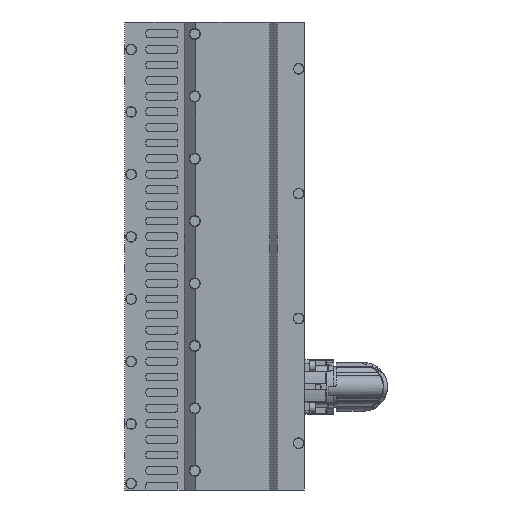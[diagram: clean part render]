
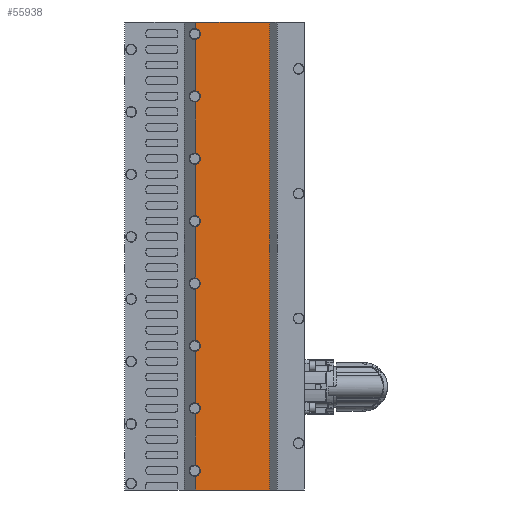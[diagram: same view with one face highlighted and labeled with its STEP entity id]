
A CAD part, left-side view. The second image highlights one B-rep face of the part: STEP entity #55938.
In plain terms, the highlighted planar face has unit normal (-1, 0, 0).
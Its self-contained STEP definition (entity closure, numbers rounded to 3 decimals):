
#4168=FACE_OUTER_BOUND('',#7235,.T.);
#7235=EDGE_LOOP('',(#34989,#34990,#34991,#34992,#34993,#34994,#34995,#34996,
#34997,#34998,#34999,#35000,#35001,#35002,#35003,#35004,#35005,#35006,#35007,
#35008));
#10577=CIRCLE('',#59154,3.);
#10578=CIRCLE('',#59155,3.);
#10579=CIRCLE('',#59156,3.);
#10580=CIRCLE('',#59157,3.);
#10581=CIRCLE('',#59158,3.);
#10582=CIRCLE('',#59159,3.);
#10583=CIRCLE('',#59160,3.);
#10584=CIRCLE('',#59161,3.);
#12876=LINE('',#80885,#16689);
#12896=LINE('',#80957,#16709);
#12897=LINE('',#80961,#16710);
#12898=LINE('',#80965,#16711);
#12899=LINE('',#80969,#16712);
#12900=LINE('',#80973,#16713);
#12901=LINE('',#80977,#16714);
#12902=LINE('',#80981,#16715);
#12903=LINE('',#80983,#16716);
#12904=LINE('',#80984,#16717);
#12905=LINE('',#80986,#16718);
#12906=LINE('',#80989,#16719);
#16689=VECTOR('',#65276,10.);
#16709=VECTOR('',#65334,10.);
#16710=VECTOR('',#65337,10.);
#16711=VECTOR('',#65340,10.);
#16712=VECTOR('',#65343,10.);
#16713=VECTOR('',#65346,10.);
#16714=VECTOR('',#65349,10.);
#16715=VECTOR('',#65352,10.);
#16716=VECTOR('',#65353,10.);
#16717=VECTOR('',#65354,10.);
#16718=VECTOR('',#65355,10.);
#16719=VECTOR('',#65358,10.);
#20625=VERTEX_POINT('',#80882);
#20626=VERTEX_POINT('',#80884);
#20657=VERTEX_POINT('',#80953);
#20658=VERTEX_POINT('',#80954);
#20659=VERTEX_POINT('',#80956);
#20660=VERTEX_POINT('',#80958);
#20661=VERTEX_POINT('',#80960);
#20662=VERTEX_POINT('',#80962);
#20663=VERTEX_POINT('',#80964);
#20664=VERTEX_POINT('',#80966);
#20665=VERTEX_POINT('',#80968);
#20666=VERTEX_POINT('',#80970);
#20667=VERTEX_POINT('',#80972);
#20668=VERTEX_POINT('',#80974);
#20669=VERTEX_POINT('',#80976);
#20670=VERTEX_POINT('',#80978);
#20671=VERTEX_POINT('',#80980);
#20672=VERTEX_POINT('',#80982);
#20673=VERTEX_POINT('',#80985);
#20674=VERTEX_POINT('',#80987);
#26277=EDGE_CURVE('',#20625,#20626,#12876,.T.);
#26311=EDGE_CURVE('',#20657,#20658,#10577,.T.);
#26312=EDGE_CURVE('',#20659,#20658,#12896,.T.);
#26313=EDGE_CURVE('',#20659,#20660,#10578,.T.);
#26314=EDGE_CURVE('',#20661,#20660,#12897,.T.);
#26315=EDGE_CURVE('',#20661,#20662,#10579,.T.);
#26316=EDGE_CURVE('',#20663,#20662,#12898,.T.);
#26317=EDGE_CURVE('',#20663,#20664,#10580,.T.);
#26318=EDGE_CURVE('',#20665,#20664,#12899,.T.);
#26319=EDGE_CURVE('',#20665,#20666,#10581,.T.);
#26320=EDGE_CURVE('',#20667,#20666,#12900,.T.);
#26321=EDGE_CURVE('',#20667,#20668,#10582,.T.);
#26322=EDGE_CURVE('',#20669,#20668,#12901,.T.);
#26323=EDGE_CURVE('',#20669,#20670,#10583,.T.);
#26324=EDGE_CURVE('',#20671,#20670,#12902,.T.);
#26325=EDGE_CURVE('',#20671,#20672,#12903,.T.);
#26326=EDGE_CURVE('',#20672,#20626,#12904,.T.);
#26327=EDGE_CURVE('',#20673,#20625,#12905,.T.);
#26328=EDGE_CURVE('',#20673,#20674,#10584,.T.);
#26329=EDGE_CURVE('',#20657,#20674,#12906,.T.);
#34989=ORIENTED_EDGE('',*,*,#26311,.T.);
#34990=ORIENTED_EDGE('',*,*,#26312,.F.);
#34991=ORIENTED_EDGE('',*,*,#26313,.T.);
#34992=ORIENTED_EDGE('',*,*,#26314,.F.);
#34993=ORIENTED_EDGE('',*,*,#26315,.T.);
#34994=ORIENTED_EDGE('',*,*,#26316,.F.);
#34995=ORIENTED_EDGE('',*,*,#26317,.T.);
#34996=ORIENTED_EDGE('',*,*,#26318,.F.);
#34997=ORIENTED_EDGE('',*,*,#26319,.T.);
#34998=ORIENTED_EDGE('',*,*,#26320,.F.);
#34999=ORIENTED_EDGE('',*,*,#26321,.T.);
#35000=ORIENTED_EDGE('',*,*,#26322,.F.);
#35001=ORIENTED_EDGE('',*,*,#26323,.T.);
#35002=ORIENTED_EDGE('',*,*,#26324,.F.);
#35003=ORIENTED_EDGE('',*,*,#26325,.T.);
#35004=ORIENTED_EDGE('',*,*,#26326,.T.);
#35005=ORIENTED_EDGE('',*,*,#26277,.F.);
#35006=ORIENTED_EDGE('',*,*,#26327,.F.);
#35007=ORIENTED_EDGE('',*,*,#26328,.T.);
#35008=ORIENTED_EDGE('',*,*,#26329,.F.);
#51383=PLANE('',#59153);
#55938=ADVANCED_FACE('',(#4168),#51383,.T.);
#59153=AXIS2_PLACEMENT_3D('',#80952,#65330,#65331);
#59154=AXIS2_PLACEMENT_3D('',#80955,#65332,#65333);
#59155=AXIS2_PLACEMENT_3D('',#80959,#65335,#65336);
#59156=AXIS2_PLACEMENT_3D('',#80963,#65338,#65339);
#59157=AXIS2_PLACEMENT_3D('',#80967,#65341,#65342);
#59158=AXIS2_PLACEMENT_3D('',#80971,#65344,#65345);
#59159=AXIS2_PLACEMENT_3D('',#80975,#65347,#65348);
#59160=AXIS2_PLACEMENT_3D('',#80979,#65350,#65351);
#59161=AXIS2_PLACEMENT_3D('',#80988,#65356,#65357);
#65276=DIRECTION('',(0.,-1.,0.));
#65330=DIRECTION('center_axis',(-1.,0.,0.));
#65331=DIRECTION('ref_axis',(0.,-1.,0.));
#65332=DIRECTION('center_axis',(1.,0.,0.));
#65333=DIRECTION('ref_axis',(0.,0.,1.));
#65334=DIRECTION('',(0.,0.,1.));
#65335=DIRECTION('center_axis',(1.,0.,0.));
#65336=DIRECTION('ref_axis',(0.,0.,1.));
#65337=DIRECTION('',(0.,0.,1.));
#65338=DIRECTION('center_axis',(1.,0.,0.));
#65339=DIRECTION('ref_axis',(0.,0.,1.));
#65340=DIRECTION('',(0.,0.,1.));
#65341=DIRECTION('center_axis',(1.,0.,0.));
#65342=DIRECTION('ref_axis',(0.,0.,1.));
#65343=DIRECTION('',(0.,0.,1.));
#65344=DIRECTION('center_axis',(1.,0.,0.));
#65345=DIRECTION('ref_axis',(0.,0.,1.));
#65346=DIRECTION('',(0.,0.,1.));
#65347=DIRECTION('center_axis',(1.,0.,0.));
#65348=DIRECTION('ref_axis',(0.,0.,1.));
#65349=DIRECTION('',(0.,0.,1.));
#65350=DIRECTION('center_axis',(1.,0.,0.));
#65351=DIRECTION('ref_axis',(0.,0.,1.));
#65352=DIRECTION('',(0.,0.,1.));
#65353=DIRECTION('',(0.,-1.,0.));
#65354=DIRECTION('',(0.,0.,1.));
#65355=DIRECTION('',(0.,0.,1.));
#65356=DIRECTION('center_axis',(1.,0.,0.));
#65357=DIRECTION('ref_axis',(0.,0.,1.));
#65358=DIRECTION('',(0.,0.,1.));
#80882=CARTESIAN_POINT('',(-17.05,-38.002,250.));
#80884=CARTESIAN_POINT('',(-17.05,-77.5,250.));
#80885=CARTESIAN_POINT('',(-17.05,-38.002,250.));
#80952=CARTESIAN_POINT('Origin',(-17.05,-38.002,0.));
#80953=CARTESIAN_POINT('',(-17.05,-38.002,213.238));
#80954=CARTESIAN_POINT('',(-17.05,-38.002,207.322));
#80955=CARTESIAN_POINT('Origin',(-17.05,-37.5,210.28));
#80956=CARTESIAN_POINT('',(-17.05,-38.002,179.908));
#80957=CARTESIAN_POINT('',(-17.05,-38.002,0.));
#80958=CARTESIAN_POINT('',(-17.05,-38.002,173.992));
#80959=CARTESIAN_POINT('Origin',(-17.05,-37.5,176.95));
#80960=CARTESIAN_POINT('',(-17.05,-38.002,146.578));
#80961=CARTESIAN_POINT('',(-17.05,-38.002,0.));
#80962=CARTESIAN_POINT('',(-17.05,-38.002,140.662));
#80963=CARTESIAN_POINT('Origin',(-17.05,-37.5,143.62));
#80964=CARTESIAN_POINT('',(-17.05,-38.002,113.248));
#80965=CARTESIAN_POINT('',(-17.05,-38.002,0.));
#80966=CARTESIAN_POINT('',(-17.05,-38.002,107.332));
#80967=CARTESIAN_POINT('Origin',(-17.05,-37.5,110.29));
#80968=CARTESIAN_POINT('',(-17.05,-38.002,79.918));
#80969=CARTESIAN_POINT('',(-17.05,-38.002,0.));
#80970=CARTESIAN_POINT('',(-17.05,-38.002,74.002));
#80971=CARTESIAN_POINT('Origin',(-17.05,-37.5,76.96));
#80972=CARTESIAN_POINT('',(-17.05,-38.002,46.588));
#80973=CARTESIAN_POINT('',(-17.05,-38.002,0.));
#80974=CARTESIAN_POINT('',(-17.05,-38.002,40.672));
#80975=CARTESIAN_POINT('Origin',(-17.05,-37.5,43.63));
#80976=CARTESIAN_POINT('',(-17.05,-38.002,13.258));
#80977=CARTESIAN_POINT('',(-17.05,-38.002,0.));
#80978=CARTESIAN_POINT('',(-17.05,-38.002,7.342));
#80979=CARTESIAN_POINT('Origin',(-17.05,-37.5,10.3));
#80980=CARTESIAN_POINT('',(-17.05,-38.002,0.));
#80981=CARTESIAN_POINT('',(-17.05,-38.002,0.));
#80982=CARTESIAN_POINT('',(-17.05,-77.5,0.));
#80983=CARTESIAN_POINT('',(-17.05,-38.002,0.));
#80984=CARTESIAN_POINT('',(-17.05,-77.5,0.));
#80985=CARTESIAN_POINT('',(-17.05,-38.002,246.568));
#80986=CARTESIAN_POINT('',(-17.05,-38.002,0.));
#80987=CARTESIAN_POINT('',(-17.05,-38.002,240.652));
#80988=CARTESIAN_POINT('Origin',(-17.05,-37.5,243.61));
#80989=CARTESIAN_POINT('',(-17.05,-38.002,0.));
